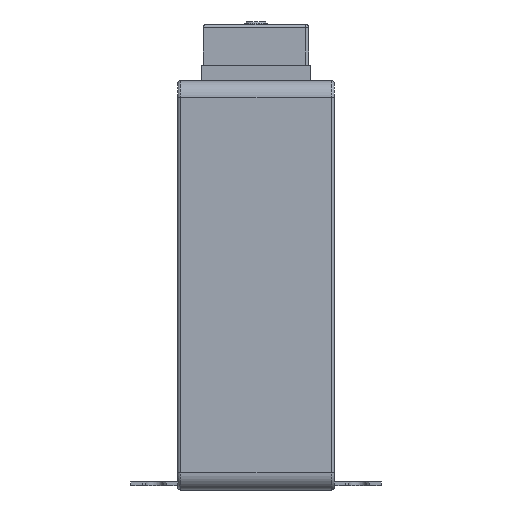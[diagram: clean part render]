
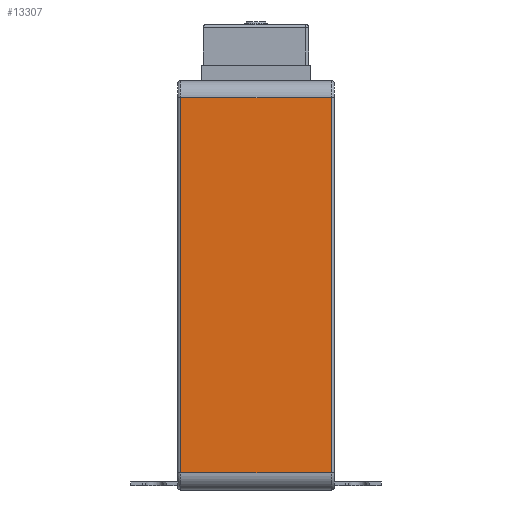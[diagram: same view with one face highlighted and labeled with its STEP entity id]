
A CAD part, left-side view. The second image highlights one B-rep face of the part: STEP entity #13307.
In plain terms, the highlighted planar face has unit normal (-1, 0, 0).
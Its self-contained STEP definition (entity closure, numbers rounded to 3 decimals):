
#2153=FACE_OUTER_BOUND('',#2932,.T.);
#2932=EDGE_LOOP('',(#11843,#11844,#11845,#11846));
#3928=LINE('',#33909,#5020);
#3942=LINE('',#33960,#5034);
#3983=LINE('',#34082,#5075);
#3986=LINE('',#34091,#5078);
#5020=VECTOR('',#18605,10.);
#5034=VECTOR('',#18663,1.);
#5075=VECTOR('',#18758,10.);
#5078=VECTOR('',#18771,1.);
#6315=VERTEX_POINT('',#33902);
#6317=VERTEX_POINT('',#33907);
#6332=VERTEX_POINT('',#33959);
#6385=VERTEX_POINT('',#34075);
#8140=EDGE_CURVE('',#6317,#6315,#3928,.T.);
#8166=EDGE_CURVE('',#6315,#6332,#3942,.T.);
#8227=EDGE_CURVE('',#6332,#6385,#3983,.T.);
#8232=EDGE_CURVE('',#6317,#6385,#3986,.T.);
#11843=ORIENTED_EDGE('',*,*,#8140,.F.);
#11844=ORIENTED_EDGE('',*,*,#8232,.T.);
#11845=ORIENTED_EDGE('',*,*,#8227,.F.);
#11846=ORIENTED_EDGE('',*,*,#8166,.F.);
#12604=PLANE('',#15126);
#13307=ADVANCED_FACE('',(#2153),#12604,.T.);
#15126=AXIS2_PLACEMENT_3D('',#34090,#18769,#18770);
#18605=DIRECTION('',(0.,0.,1.));
#18663=DIRECTION('',(0.,-1.,0.));
#18758=DIRECTION('',(0.,0.,-1.));
#18769=DIRECTION('center_axis',(-1.,0.,0.));
#18770=DIRECTION('ref_axis',(0.,0.,1.));
#18771=DIRECTION('',(0.,-1.,0.));
#33902=CARTESIAN_POINT('',(3111.083,-1444.204,-126.542));
#33907=CARTESIAN_POINT('',(3111.083,-1444.204,-236.542));
#33909=CARTESIAN_POINT('',(3111.083,-1444.204,-209.042));
#33959=CARTESIAN_POINT('',(3111.083,-1488.204,-126.542));
#33960=CARTESIAN_POINT('',(3111.083,-1443.204,-126.542));
#34075=CARTESIAN_POINT('',(3111.083,-1488.204,-236.542));
#34082=CARTESIAN_POINT('',(3111.083,-1488.204,-209.042));
#34090=CARTESIAN_POINT('Origin',(3111.083,-1443.204,-236.542));
#34091=CARTESIAN_POINT('',(3111.083,-1443.204,-236.542));
